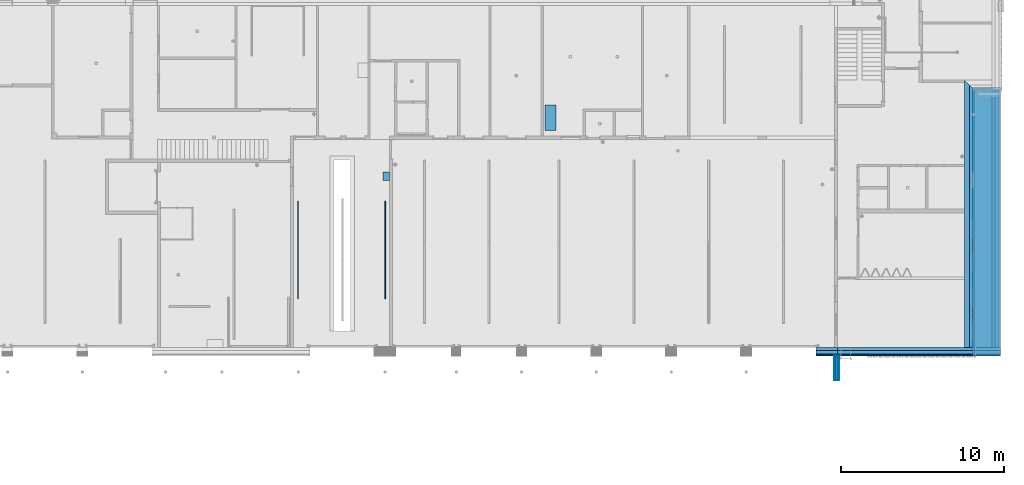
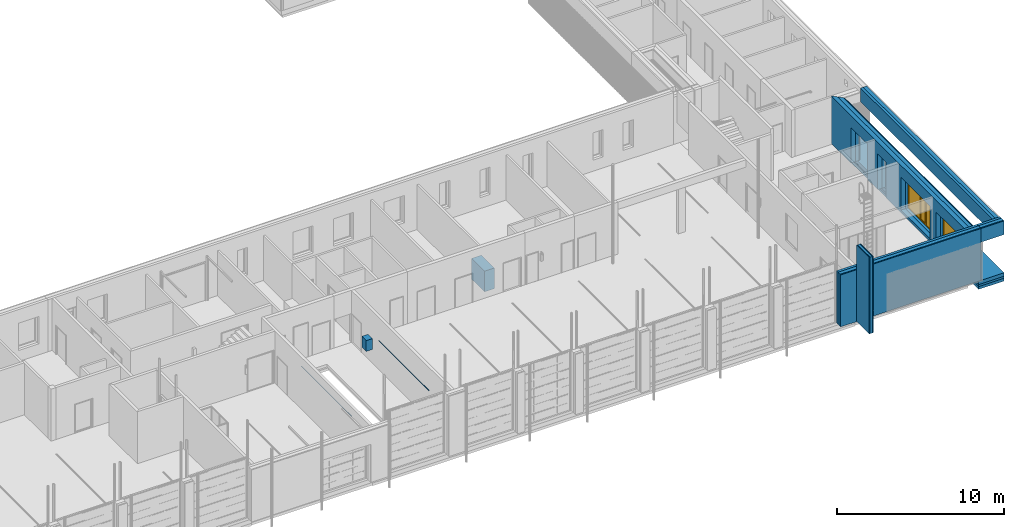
# One storey, part 28 of 112: 23 building element parts, 4 discrete accessories, 2 windows, 4 openings, 7 elements without a shape of their own.
"""IFC2X3 building model written with IfcOpenShell, lengths in millimetres."""

from ifc_helpers import new_model, entity, si_unit, converted_unit, derived_unit, money_unit, direction, frame, origin_with_axes, origin_2d_with_axis, place, context, subcontext, project, spatial, polyline, rectangle, outline, extrude, open_shell, faceted_brep, surface_model, source, transform, mapped, material, type_object, element, fill, aggregate, save


model = new_model("IFC2X3")

# Units and contexts
model_context = context("Model", 3, precision=0.01, world=origin_with_axes(), true_north=direction((0.0, 1.0)))
body_context = subcontext(model_context, "Body", "Model", "MODEL_VIEW")
ifc_project = project(units=[si_unit("LENGTHUNIT", "METRE", prefix="MILLI"), si_unit("AREAUNIT", "SQUARE_METRE"), si_unit("VOLUMEUNIT", "CUBIC_METRE"), converted_unit("PLANEANGLEUNIT", "DEGREE", entity("IfcPlaneAngleMeasure", 0.0174532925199), si_unit("PLANEANGLEUNIT", "RADIAN"), dimensions=[0, 0, 0, 0, 0, 0, 0]), si_unit("SOLIDANGLEUNIT", "STERADIAN"), money_unit("EUR"), converted_unit("TIMEUNIT", "Year", entity("IfcTimeMeasure", 31556926.0), si_unit("TIMEUNIT", "SECOND"), dimensions=[0, 0, 1, 0, 0, 0, 0]), si_unit("MASSUNIT", "GRAM", prefix="KILO"), si_unit("THERMODYNAMICTEMPERATUREUNIT", "DEGREE_CELSIUS"), si_unit("LUMINOUSINTENSITYUNIT", "LUMEN"), si_unit("ENERGYUNIT", "JOULE", prefix="MEGA"), derived_unit("THERMALCONDUCTANCEUNIT", [(si_unit("POWERUNIT", "WATT"), 1), (si_unit("LENGTHUNIT", "METRE"), -1), (si_unit("THERMODYNAMICTEMPERATUREUNIT", "KELVIN"), -1)]), derived_unit("SPECIFICHEATCAPACITYUNIT", [(si_unit("ENERGYUNIT", "JOULE"), 1), (si_unit("MASSUNIT", "GRAM", prefix="KILO"), -1), (si_unit("THERMODYNAMICTEMPERATUREUNIT", "KELVIN"), -1)]), derived_unit("MASSDENSITYUNIT", [(si_unit("MASSUNIT", "GRAM", prefix="KILO"), 1), (si_unit("VOLUMEUNIT", "CUBIC_METRE"), -1)])], contexts=[model_context])

# Site, building, storey
site_placement = place(None, origin_with_axes())
site = spatial("IfcSite", under=ifc_project, at=site_placement, Name="Politse- ja Piirivalveameti ning Päästeameti ühishoone", CompositionType="ELEMENT")
building_placement = place(site_placement, origin_with_axes())
building = spatial("IfcBuilding", under=site, at=building_placement, Name="Politse- ja Piirivalveameti ning Päästeameti ühishoone", CompositionType="ELEMENT")
storey_placement = place(building_placement, origin_with_axes())
storey = spatial("IfcBuildingStorey", under=building, at=storey_placement, Name="Esimene korrus", CompositionType="ELEMENT", Elevation=0.0)

# Window
window_style = type_object("IfcWindowStyle", Name="Triple Window 23", ConstructionType="NOTDEFINED", OperationType="TRIPLE_PANEL_VERTICAL", ParameterTakesPrecedence=False, Sizeable=False)
shared_shape_1 = source(origin_with_axes(), body_context, "Body", "SurfaceModel", [
    faceted_brep([(287.5, -25.0, 2350.0), (287.5, -50.0, 2350.0), (412.5, -50.0, 2350.0), (412.5, 0.0, 2350.0), (312.5, 0.0, 2350.0), (312.5, -25.0, 2350.0), (287.5, -25.0, 50.0), (287.5, -50.0, 50.0), (412.5, -50.0, 50.0), (412.5, 0.0, 50.0), (312.5, 0.0, 50.0), (312.5, -25.0, 50.0)], [[[0, 1, 2, 3, 4, 5]], [[6, 7, 1, 0]], [[8, 2, 1, 7]], [[9, 3, 2, 8]], [[4, 3, 9, 10]], [[10, 11, 5, 4]], [[5, 11, 6, 0]], [[11, 10, 9, 8, 7, 6]]]),
    faceted_brep([(-332.0, 0.0, 2350.0), (-393.0, 0.0, 2350.0), (-393.0, -50.0, 2350.0), (-307.0, -50.0, 2350.0), (-307.0, -25.0, 2350.0), (-332.0, -25.0, 2350.0), (-332.0, 0.0, 50.0), (-393.0, 0.0, 50.0), (-393.0, -50.0, 50.0), (-307.0, -50.0, 50.0), (-307.0, -25.0, 50.0), (-332.0, -25.0, 50.0)], [[[0, 1, 2, 3, 4, 5]], [[6, 7, 1, 0]], [[1, 7, 8, 2]], [[2, 8, 9, 3]], [[4, 3, 9, 10]], [[10, 11, 5, 4]], [[5, 11, 6, 0]], [[11, 10, 9, 8, 7, 6]]]),
    faceted_brep([(287.5, -25.0, 50.0), (287.5, -50.0, 50.0), (412.5, -50.0, 50.0), (412.5, 0.0, 50.0), (312.5, 0.0, 50.0), (312.5, -25.0, 50.0), (-307.0, -25.0, 50.0), (-307.0, -50.0, 50.0), (-1750.0, -50.0, 50.0), (-1750.0, -50.0, 0.0), (1750.0, -50.0, 0.0), (1750.0, -50.0, 50.0), (1700.0, -50.0, 50.0), (-393.0, -50.0, 50.0), (-1700.0, -50.0, 50.0), (1700.0, 0.0, 50.0), (-332.0, 0.0, 25.0), (312.5, 0.0, 25.0), (1750.0, 0.0, 50.0), (1750.0, 0.0, 0.0), (-1750.0, 0.0, 0.0), (-1750.0, 0.0, 50.0), (-1700.0, 0.0, 50.0), (-393.0, 0.0, 50.0), (-332.0, 0.0, 50.0), (312.5, -25.0, 25.0), (-332.0, -25.0, 25.0), (-332.0, -25.0, 50.0)], [[[0, 1, 2, 3, 4, 5]], [[6, 7, 1, 0]], [[8, 9, 10, 11, 12, 2, 1, 7, 13, 14]], [[15, 3, 2, 12]], [[16, 17, 4, 3, 15, 18, 19, 20, 21, 22, 23, 24]], [[17, 25, 5, 4]], [[5, 25, 26, 27, 6, 0]], [[27, 24, 23, 13, 7, 6]], [[21, 20, 9, 8]], [[20, 19, 10, 9]], [[19, 18, 11, 10]], [[18, 15, 12, 11]], [[23, 22, 14, 13]], [[22, 21, 8, 14]], [[16, 26, 25, 17]], [[27, 26, 16, 24]]]),
    faceted_brep([(-332.0, 0.0, 2350.0), (-393.0, 0.0, 2350.0), (-1700.0, 0.0, 2350.0), (-1750.0, 0.0, 2350.0), (-1750.0, 0.0, 2400.0), (1750.0, 0.0, 2400.0), (1750.0, 0.0, 2350.0), (1700.0, 0.0, 2350.0), (412.5, 0.0, 2350.0), (312.5, 0.0, 2350.0), (312.5, 0.0, 2375.0), (-332.0, 0.0, 2375.0), (-332.0, -25.0, 2350.0), (-307.0, -25.0, 2350.0), (-307.0, -50.0, 2350.0), (-393.0, -50.0, 2350.0), (-1700.0, -50.0, 2350.0), (-1750.0, -50.0, 2350.0), (-1750.0, -50.0, 2400.0), (1750.0, -50.0, 2400.0), (1750.0, -50.0, 2350.0), (1700.0, -50.0, 2350.0), (412.5, -50.0, 2350.0), (312.5, -25.0, 2350.0), (287.5, -50.0, 2350.0), (287.5, -25.0, 2350.0), (312.5, -25.0, 2375.0), (-332.0, -25.0, 2375.0)], [[[0, 1, 2, 3, 4, 5, 6, 7, 8, 9, 10, 11]], [[12, 13, 14, 15, 1, 0]], [[2, 1, 15, 16]], [[3, 2, 16, 17]], [[4, 3, 17, 18]], [[5, 4, 18, 19]], [[6, 5, 19, 20]], [[7, 6, 20, 21]], [[8, 7, 21, 22]], [[23, 9, 8, 22, 24, 25]], [[9, 23, 26, 10]], [[10, 26, 27, 11]], [[11, 27, 12, 0]], [[25, 13, 12, 27, 26, 23]], [[25, 24, 14, 13]], [[14, 24, 22, 21, 20, 19, 18, 17, 16, 15]]]),
    faceted_brep([(-1700.0, -50.0, 2350.0), (-1700.0, 0.0, 2350.0), (-1750.0, 0.0, 2350.0), (-1750.0, -50.0, 2350.0), (-1700.0, -50.0, 50.0), (-1700.0, 0.0, 50.0), (-1750.0, 0.0, 50.0), (-1750.0, -50.0, 50.0)], [[[0, 1, 2, 3]], [[4, 5, 1, 0]], [[1, 5, 6, 2]], [[3, 2, 6, 7]], [[0, 3, 7, 4]], [[7, 6, 5, 4]]]),
    faceted_brep([(1700.0, -50.0, 50.0), (1700.0, 0.0, 50.0), (1750.0, 0.0, 50.0), (1750.0, -50.0, 50.0), (1700.0, -50.0, 2350.0), (1700.0, 0.0, 2350.0), (1750.0, 0.0, 2350.0), (1750.0, -50.0, 2350.0)], [[[0, 1, 2, 3]], [[4, 5, 1, 0]], [[1, 5, 6, 2]], [[3, 2, 6, 7]], [[0, 3, 7, 4]], [[7, 6, 5, 4]]]),
    surface_model("IfcShellBasedSurfaceModel", [(-1700.0, -35.0, 50.0), (-393.0, -35.0, 50.0), (-393.0, -35.0, 2350.0), (-1700.0, -35.0, 2350.0)], [open_shell([[[0, 1, 2, 3]]])]),
    surface_model("IfcShellBasedSurfaceModel", [(-1700.0, -15.0, 50.0), (-1700.0, -15.0, 2350.0), (-393.0, -15.0, 2350.0), (-393.0, -15.0, 50.0)], [open_shell([[[0, 1, 2, 3]]])]),
    faceted_brep([(-282.0, -25.0, 2325.0), (-282.0, 25.0, 2325.0), (-332.0, 25.0, 2325.0), (-332.0, -25.0, 2325.0), (-282.0, -25.0, 75.0), (-282.0, 25.0, 75.0), (-332.0, 25.0, 75.0), (-332.0, -25.0, 75.0)], [[[0, 1, 2, 3]], [[4, 5, 1, 0]], [[1, 5, 6, 2]], [[3, 2, 6, 7]], [[0, 3, 7, 4]], [[7, 6, 5, 4]]]),
    faceted_brep([(262.5, -25.0, 75.0), (262.5, 25.0, 75.0), (312.5, 25.0, 75.0), (312.5, -25.0, 75.0), (262.5, -25.0, 2325.0), (262.5, 25.0, 2325.0), (312.5, 25.0, 2325.0), (312.5, -25.0, 2325.0)], [[[0, 1, 2, 3]], [[4, 5, 1, 0]], [[1, 5, 6, 2]], [[3, 2, 6, 7]], [[0, 3, 7, 4]], [[7, 6, 5, 4]]]),
    faceted_brep([(312.5, -25.0, 25.0), (312.5, 25.0, 25.0), (312.5, 25.0, 75.0), (312.5, -25.0, 75.0), (-332.0, -25.0, 25.0), (-332.0, 25.0, 25.0), (-332.0, 25.0, 75.0), (-282.0, 25.0, 75.0), (262.5, 25.0, 75.0), (262.5, -25.0, 75.0), (-282.0, -25.0, 75.0), (-332.0, -25.0, 75.0)], [[[0, 1, 2, 3]], [[4, 5, 1, 0]], [[1, 5, 6, 7, 8, 2]], [[3, 2, 8, 9]], [[0, 3, 9, 10, 11, 4]], [[11, 6, 5, 4]], [[10, 7, 6, 11]], [[9, 8, 7, 10]]]),
    faceted_brep([(-332.0, -25.0, 2375.0), (-332.0, 25.0, 2375.0), (-332.0, 25.0, 2325.0), (-332.0, -25.0, 2325.0), (312.5, -25.0, 2375.0), (312.5, 25.0, 2375.0), (312.5, 25.0, 2325.0), (262.5, 25.0, 2325.0), (-282.0, 25.0, 2325.0), (-282.0, -25.0, 2325.0), (262.5, -25.0, 2325.0), (312.5, -25.0, 2325.0)], [[[0, 1, 2, 3]], [[4, 5, 1, 0]], [[1, 5, 6, 7, 8, 2]], [[3, 2, 8, 9]], [[0, 3, 9, 10, 11, 4]], [[11, 6, 5, 4]], [[10, 7, 6, 11]], [[9, 8, 7, 10]]]),
    surface_model("IfcShellBasedSurfaceModel", [(-282.0, -10.0, 75.0), (262.5, -10.0, 75.0), (262.5, -10.0, 2325.0), (-282.0, -10.0, 2325.0)], [open_shell([[[0, 1, 2, 3]]])]),
    surface_model("IfcShellBasedSurfaceModel", [(-282.0, 10.0, 75.0), (-282.0, 10.0, 2325.0), (262.5, 10.0, 2325.0), (262.5, 10.0, 75.0)], [open_shell([[[0, 1, 2, 3]]])]),
    surface_model("IfcShellBasedSurfaceModel", [(412.5, -35.0, 50.0), (1700.0, -35.0, 50.0), (1700.0, -35.0, 2350.0), (412.5, -35.0, 2350.0)], [open_shell([[[0, 1, 2, 3]]])]),
    surface_model("IfcShellBasedSurfaceModel", [(412.5, -15.0, 50.0), (412.5, -15.0, 2350.0), (1700.0, -15.0, 2350.0), (1700.0, -15.0, 50.0)], [open_shell([[[0, 1, 2, 3]]])]),
])
wall_1_placement = place(storey_placement, frame((67960.5638285, 0.0, 0.0), z_axis=(0.0, 0.0, 1.0), x_axis=(0.0, 1.0, 0.0)))
opening_1_placement = place(wall_1_placement, frame((6253.00649306, 0.0, 200.0), z_axis=(0.0, 0.0, 1.0), x_axis=(1.0, 0.0, 0.0)))
window_1_placement = place(opening_1_placement, frame((1750.0, 0.0, 0.0), z_axis=(0.0, 0.0, 1.0), x_axis=(-1.0, 0.0, 0.0)))
window_1 = element("IfcWindow", 1, at=window_1_placement, inside=storey, type_object=window_style, Name="A-03", ObjectType="WINDOW", OverallHeight=2400.0, OverallWidth=3500.0, context=body_context, shape_type="MappedRepresentation", body=[
    mapped(shared_shape_1, transform((1750.0, 540.0, 0.0))),
])

opening_2_placement = place(wall_1_placement, frame((2053.00649306, 0.0, 200.0), z_axis=(0.0, 0.0, 1.0), x_axis=(1.0, 0.0, 0.0)))
window_2_placement = place(opening_2_placement, frame((1750.0, 0.0, 0.0), z_axis=(0.0, 0.0, 1.0), x_axis=(-1.0, 0.0, 0.0)))
window_2 = element("IfcWindow", 2, at=window_2_placement, inside=storey, type_object=window_style, Name="A-03", ObjectType="WINDOW", OverallHeight=2400.0, OverallWidth=3500.0, context=body_context, shape_type="MappedRepresentation", body=[
    mapped(shared_shape_1, transform((1750.0, 540.0, 0.0))),
])

# Discrete accessories
discrete_accessory_type_1 = type_object("IfcDiscreteAccessoryType", Name="Tube 23")
shared_shape_2 = source(origin_with_axes(), body_context, "Body", "Brep", [
    faceted_brep([(0.0, 0.0, -25.0), (0.0, -6.47047612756, -24.1481456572), (0.0, -12.5, -21.6506350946), (0.0, -17.6776695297, -17.6776695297), (0.0, -21.6506350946, -12.5), (0.0, -24.1481456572, -6.47047612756), (0.0, -25.0, 0.0), (0.0, -24.1481456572, 6.47047612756), (0.0, -21.6506350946, 12.5), (0.0, -17.6776695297, 17.6776695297), (0.0, -12.5, 21.6506350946), (0.0, -6.47047612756, 24.1481456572), (0.0, 0.0, 25.0), (0.0, 6.47047612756, 24.1481456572), (0.0, 12.5, 21.6506350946), (0.0, 17.6776695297, 17.6776695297), (0.0, 21.6506350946, 12.5), (0.0, 24.1481456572, 6.47047612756), (0.0, 25.0, 0.0), (0.0, 24.1481456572, -6.47047612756), (0.0, 21.6506350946, -12.5), (0.0, 17.6776695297, -17.6776695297), (0.0, 12.5, -21.6506350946), (0.0, 6.47047612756, -24.1481456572), (0.0, -10.0, -17.3205080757), (0.0, -5.17638090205, -19.3185165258), (0.0, 0.0, -20.0), (0.0, 5.17638090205, -19.3185165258), (0.0, 10.0, -17.3205080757), (0.0, 14.1421356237, -14.1421356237), (0.0, 17.3205080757, -10.0), (0.0, 19.3185165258, -5.17638090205), (0.0, 20.0, 0.0), (0.0, 19.3185165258, 5.17638090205), (0.0, 17.3205080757, 10.0), (0.0, 14.1421356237, 14.1421356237), (0.0, 10.0, 17.3205080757), (0.0, 5.17638090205, 19.3185165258), (0.0, 0.0, 20.0), (0.0, -5.17638090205, 19.3185165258), (0.0, -10.0, 17.3205080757), (0.0, -14.1421356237, 14.1421356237), (0.0, -17.3205080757, 10.0), (0.0, -19.3185165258, 5.17638090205), (0.0, -20.0, 0.0), (0.0, -19.3185165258, -5.17638090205), (0.0, -17.3205080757, -10.0), (0.0, -14.1421356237, -14.1421356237), (6000.0, -6.47047612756, -24.1481456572), (6000.0, 0.0, -25.0), (6000.0, -12.5, -21.6506350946), (6000.0, -17.6776695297, -17.6776695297), (6000.0, -21.6506350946, -12.5), (6000.0, -24.1481456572, -6.47047612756), (6000.0, -25.0, 0.0), (6000.0, -24.1481456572, 6.47047612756), (6000.0, -21.6506350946, 12.5), (6000.0, -17.6776695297, 17.6776695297), (6000.0, -12.5, 21.6506350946), (6000.0, -6.47047612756, 24.1481456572), (6000.0, 0.0, 25.0), (6000.0, 6.47047612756, 24.1481456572), (6000.0, 12.5, 21.6506350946), (6000.0, 17.6776695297, 17.6776695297), (6000.0, 21.6506350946, 12.5), (6000.0, 24.1481456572, 6.47047612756), (6000.0, 25.0, 0.0), (6000.0, 24.1481456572, -6.47047612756), (6000.0, 21.6506350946, -12.5), (6000.0, 17.6776695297, -17.6776695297), (6000.0, 12.5, -21.6506350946), (6000.0, 6.47047612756, -24.1481456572), (6000.0, -10.0, -17.3205080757), (6000.0, -5.17638090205, -19.3185165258), (6000.0, 0.0, -20.0), (6000.0, 5.17638090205, -19.3185165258), (6000.0, 10.0, -17.3205080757), (6000.0, 14.1421356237, -14.1421356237), (6000.0, 17.3205080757, -10.0), (6000.0, 19.3185165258, -5.17638090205), (6000.0, 20.0, 0.0), (6000.0, 19.3185165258, 5.17638090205), (6000.0, 17.3205080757, 10.0), (6000.0, 14.1421356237, 14.1421356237), (6000.0, 10.0, 17.3205080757), (6000.0, 5.17638090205, 19.3185165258), (6000.0, 0.0, 20.0), (6000.0, -5.17638090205, 19.3185165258), (6000.0, -10.0, 17.3205080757), (6000.0, -14.1421356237, 14.1421356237), (6000.0, -17.3205080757, 10.0), (6000.0, -19.3185165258, 5.17638090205), (6000.0, -20.0, 0.0), (6000.0, -19.3185165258, -5.17638090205), (6000.0, -17.3205080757, -10.0), (6000.0, -14.1421356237, -14.1421356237)], [[[0, 1, 2, 3, 4, 5, 6, 7, 8, 9, 10, 11, 12, 13, 14, 15, 16, 17, 18, 19, 20, 21, 22, 23], [24, 25, 26, 27, 28, 29, 30, 31, 32, 33, 34, 35, 36, 37, 38, 39, 40, 41, 42, 43, 44, 45, 46, 47]], [[48, 1, 0, 49]], [[50, 2, 1, 48]], [[51, 3, 2, 50]], [[52, 4, 3, 51]], [[53, 5, 4, 52]], [[54, 6, 5, 53]], [[55, 7, 6, 54]], [[56, 8, 7, 55]], [[57, 9, 8, 56]], [[58, 10, 9, 57]], [[59, 11, 10, 58]], [[60, 12, 11, 59]], [[61, 13, 12, 60]], [[62, 14, 13, 61]], [[63, 15, 14, 62]], [[64, 16, 15, 63]], [[65, 17, 16, 64]], [[66, 18, 17, 65]], [[67, 19, 18, 66]], [[68, 20, 19, 67]], [[69, 21, 20, 68]], [[70, 22, 21, 69]], [[71, 23, 22, 70]], [[49, 0, 23, 71]], [[72, 73, 25, 24]], [[73, 74, 26, 25]], [[74, 75, 27, 26]], [[75, 76, 28, 27]], [[76, 77, 29, 28]], [[77, 78, 30, 29]], [[78, 79, 31, 30]], [[79, 80, 32, 31]], [[80, 81, 33, 32]], [[81, 82, 34, 33]], [[82, 83, 35, 34]], [[83, 84, 36, 35]], [[84, 85, 37, 36]], [[85, 86, 38, 37]], [[86, 87, 39, 38]], [[87, 88, 40, 39]], [[88, 89, 41, 40]], [[89, 90, 42, 41]], [[90, 91, 43, 42]], [[91, 92, 44, 43]], [[92, 93, 45, 44]], [[93, 94, 46, 45]], [[94, 95, 47, 46]], [[95, 72, 24, 47]], [[50, 48, 49, 71, 70, 69, 68, 67, 66, 65, 64, 63, 62, 61, 60, 59, 58, 57, 56, 55, 54, 53, 52, 51], [76, 75, 74, 73, 72, 95, 94, 93, 92, 91, 90, 89, 88, 87, 86, 85, 84, 83, 82, 81, 80, 79, 78, 77]]]),
])
for number, where, z_axis, x_axis in (
    (3, (27034.3059726, 2983.34089764, 2500.0), (0.0, 0.0, 1.0), (0.0, 1.0, 0.0)),
    (4, (32389.7100495, 2983.34089764, 2500.0), (0.0, 0.0, 1.0), (0.0, 1.0, 0.0)),
):
    element("IfcDiscreteAccessory", number, at=place(storey_placement, frame(where, z_axis=z_axis, x_axis=x_axis)), inside=storey, type_object=discrete_accessory_type_1, Name="Voolikukandur", context=body_context, shape_type="MappedRepresentation", body=[
        mapped(shared_shape_2, transform((0.0, 0.0, 0.0))),
    ])
ifc_material_1 = material(Name="Aluminium")
discrete_accessory_type_2 = type_object("IfcDiscreteAccessoryType", Name="Aluminium 790")
discrete_accessory_1_placement = place(storey_placement, frame((32244.7100495, 10247.2846977, 1000.0), z_axis=(0.0, 0.0, 1.0), x_axis=(1.0, 0.0, 0.0)))
element("IfcDiscreteAccessory", 5, at=discrete_accessory_1_placement, inside=storey, type_object=discrete_accessory_type_2, material=ifc_material_1, Name="Kõrgsurvepesur", context=body_context, shape_type="SweptSolid", body=[
    extrude(outline(polyline([(0.0, 0.0), (420.0, 0.0), (420.0, 533.0), (0.0, 533.0), (0.0, 0.0)])), origin_with_axes(), (0.0, 0.0, 1.0), 790.0),
])
discrete_accessory_type_3 = type_object("IfcDiscreteAccessoryType", Name="Aluminium 1510")
discrete_accessory_2_placement = place(storey_placement, frame((42208.2627781, 13328.0639744, 0.0), z_axis=(0.0, 0.0, 1.0), x_axis=(1.0, 0.0, 0.0)))
element("IfcDiscreteAccessory", 6, at=discrete_accessory_2_placement, inside=storey, type_object=discrete_accessory_type_3, material=ifc_material_1, Name="Madalsurve suruõhukompressor", context=body_context, shape_type="SweptSolid", body=[
    extrude(outline(polyline([(0.0, 0.0), (680.0, 0.0), (680.0, 1560.0), (0.0, 1560.0), (0.0, 0.0)])), origin_with_axes(), (0.0, 0.0, 1.0), 1510.0),
])

# Wall, opening
wall_type_1 = type_object("IfcWallType", Name="VS-03_välissein paneel300 + fassaadikassett 620", PredefinedType="NOTDEFINED")
wall_1 = element("IfcWall", 7, at=wall_1_placement, inside=storey, type_object=wall_type_1, Name="VS-03")
opening_1 = element("IfcOpeningElement", 8, at=opening_1_placement, cuts=wall_1, Name="A-03", context=body_context, shape_type="SweptSolid", body=[
    extrude(rectangle(XDim=3500.0, YDim=2400.0, at=origin_2d_with_axis()), frame((0.0, -540.0, 1200.0), z_axis=(0.0, -1.0, 0.0), x_axis=(-1.0, 0.0, 0.0)), (0.0, 0.0, -1.0), 1160.0),
    extrude(rectangle(XDim=3500.0, YDim=2400.0, at=origin_2d_with_axis()), frame((0.0, -540.0, 1200.0), z_axis=(0.0, 1.0, 0.0), x_axis=(-1.0, 0.0, 0.0)), (0.0, 0.0, -1.0), 700.0),
])

fill(opening_1, window_1)

# Opening
opening_2 = element("IfcOpeningElement", 9, at=opening_2_placement, cuts=wall_1, Name="A-03", context=body_context, shape_type="SweptSolid", body=[
    extrude(rectangle(XDim=3500.0, YDim=2400.0, at=origin_2d_with_axis()), frame((0.0, -540.0, 1200.0), z_axis=(0.0, -1.0, 0.0), x_axis=(-1.0, 0.0, 0.0)), (0.0, 0.0, -1.0), 1160.0),
    extrude(rectangle(XDim=3500.0, YDim=2400.0, at=origin_2d_with_axis()), frame((0.0, -540.0, 1200.0), z_axis=(0.0, 1.0, 0.0), x_axis=(-1.0, 0.0, 0.0)), (0.0, 0.0, -1.0), 700.0),
])

fill(opening_2, window_2)

opening_3_placement = place(wall_1_placement, frame((13002.9890326, 0.0, 0.0), z_axis=(0.0, 0.0, 1.0), x_axis=(1.0, 0.0, 0.0)))
element("IfcOpeningElement", 10, at=opening_3_placement, cuts=wall_1, Name="VU-02", context=body_context, shape_type="SweptSolid", body=[
    extrude(rectangle(XDim=2000.0, YDim=2600.0, at=origin_2d_with_axis()), frame((0.0, 620.0, 1300.0), z_axis=(0.0, -1.0, 0.0), x_axis=(-1.0, 0.0, 0.0)), (0.0, 0.0, 1.0), 1860.0),
])

opening_4_placement = place(wall_1_placement, frame((10303.1201278, 0.0, 0.0), z_axis=(0.0, 0.0, 1.0), x_axis=(1.0, 0.0, 0.0)))
element("IfcOpeningElement", 11, at=opening_4_placement, cuts=wall_1, Name="VU-07", context=body_context, shape_type="SweptSolid", body=[
    extrude(rectangle(XDim=1000.0, YDim=2600.0, at=origin_2d_with_axis()), frame((0.0, -550.0, 1300.0), z_axis=(0.0, 1.0, 0.0), x_axis=(1.0, 0.0, 0.0)), (0.0, 0.0, 1.0), 1170.0),
    extrude(rectangle(XDim=1000.0, YDim=2600.0, at=origin_2d_with_axis()), frame((0.0, -550.0, 1300.0), z_axis=(0.0, -1.0, 0.0), x_axis=(1.0, 0.0, 0.0)), (0.0, 0.0, 1.0), 690.0),
])

# Building element part
ifc_material_2 = material(Name="KON-04_Betoon - Konstuktsioon")
building_element_part_1_placement = place(wall_1_placement, origin_with_axes())
building_element_part_1 = element("IfcBuildingElementPart", 12, at=building_element_part_1_placement, material=ifc_material_2, Name="KON-04_Betoon - Konstuktsioon", context=body_context, shape_type="SweptSolid", body=[
    extrude(outline(polyline([(0.0, -300.0), (16122.809139, -300.0), (16422.809139, 0.0), (0.0, 0.0), (0.0, -300.0)])), origin_with_axes(), (0.0, 0.0, 1.0), 3460.0),
])

ifc_material_3 = material(Name="SOJ-06_Soojustus - Plastik Kõva")
building_element_part_2_placement = place(wall_1_placement, origin_with_axes())
building_element_part_2 = element("IfcBuildingElementPart", 13, at=building_element_part_2_placement, material=ifc_material_3, Name="SOJ-06_Soojustus - Plastik Kõva", context=body_context, shape_type="SweptSolid", body=[
    extrude(outline(polyline([(0.0, -550.0), (15872.809139, -550.0), (16122.809139, -300.0), (0.0, -300.0), (0.0, -550.0)])), origin_with_axes(), (0.0, 0.0, 1.0), 3460.0),
])

ifc_material_4 = material(Name="Õhkvahe - Raam")
building_element_part_3_placement = place(wall_1_placement, origin_with_axes())
building_element_part_3 = element("IfcBuildingElementPart", 14, at=building_element_part_3_placement, material=ifc_material_4, Name="Õhkvahe - Raam", context=body_context, shape_type="SweptSolid", body=[
    extrude(outline(polyline([(0.0, -580.0), (15842.809139, -580.0), (15872.809139, -550.0), (0.0, -550.0), (0.0, -580.0)])), origin_with_axes(), (0.0, 0.0, 1.0), 3460.0),
])

ifc_material_5 = material(Name="GENEERILINE - VÄLINE VOODER")
building_element_part_4_placement = place(wall_1_placement, origin_with_axes())
building_element_part_4 = element("IfcBuildingElementPart", 15, at=building_element_part_4_placement, material=ifc_material_5, Name="GENEERILINE - VÄLINE VOODER", context=body_context, shape_type="SweptSolid", body=[
    extrude(outline(polyline([(0.0, -620.0), (15802.809139, -620.0), (15842.809139, -580.0), (0.0, -580.0), (0.0, -620.0)])), origin_with_axes(), (0.0, 0.0, 1.0), 3460.0),
])

aggregate(wall_1, [building_element_part_1, building_element_part_2, building_element_part_3, building_element_part_4])

# Wall, building element parts
wall_type_2 = type_object("IfcWallType", Name="VS-01_välissein 510", PredefinedType="NOTDEFINED")
wall_2_placement = place(storey_placement, frame((69660.5664257, 15802.809139, 2799.5350048), z_axis=(0.0, 0.0, 1.0), x_axis=(0.0, -1.0, 0.0)))
wall_2 = element("IfcWall", 16, at=wall_2_placement, inside=storey, type_object=wall_type_2, Name="VS-01")
building_element_part_5_placement = place(wall_2_placement, origin_with_axes())
building_element_part_5 = element("IfcBuildingElementPart", 17, at=building_element_part_5_placement, material=ifc_material_2, Name="KON-04_Betoon - Konstuktsioon", context=body_context, shape_type="SweptSolid", body=[
    extrude(outline(polyline([(0.0, 0.0), (15802.809139, 0.0), (15802.809139, 180.0), (0.0, 180.0), (0.0, 0.0)])), origin_with_axes(), (0.0, 0.0, 1.0), 1000.4649952),
])
building_element_part_6_placement = place(wall_2_placement, origin_with_axes())
building_element_part_6 = element("IfcBuildingElementPart", 18, at=building_element_part_6_placement, material=ifc_material_3, Name="SOJ-06_Soojustus - Plastik Kõva", context=body_context, shape_type="SweptSolid", body=[
    extrude(outline(polyline([(0.0, 180.0), (15802.809139, 180.0), (15802.809139, 430.0), (0.0, 430.0), (0.0, 180.0)])), origin_with_axes(), (0.0, 0.0, 1.0), 1000.4649952),
])
aggregate(wall_2, [building_element_part_5, building_element_part_6])

wall_3_placement = place(storey_placement, frame((68580.5638285, 0.0, 2799.5350048), z_axis=(0.0, 0.0, 1.0), x_axis=(1.0, 0.0, 0.0)))
wall_3 = element("IfcWall", 19, at=wall_3_placement, inside=storey, type_object=wall_type_2, Name="VS-01")
building_element_part_7_placement = place(wall_3_placement, origin_with_axes())
building_element_part_7 = element("IfcBuildingElementPart", 20, at=building_element_part_7_placement, material=ifc_material_2, Name="KON-04_Betoon - Konstuktsioon", context=body_context, shape_type="SweptSolid", body=[
    extrude(outline(polyline([(0.0, -180.0), (1590.00259722, -180.0), (1590.00259722, 0.0), (0.0, 0.0), (0.0, -180.0)])), origin_with_axes(), (0.0, 0.0, 1.0), 1000.4649952),
])
building_element_part_8_placement = place(wall_3_placement, origin_with_axes())
building_element_part_8 = element("IfcBuildingElementPart", 21, at=building_element_part_8_placement, material=ifc_material_3, Name="SOJ-06_Soojustus - Plastik Kõva", context=body_context, shape_type="SweptSolid", body=[
    extrude(outline(polyline([(0.0, -430.0), (1590.00259722, -430.0), (1590.00259722, -180.0), (0.0, -180.0), (0.0, -430.0)])), origin_with_axes(), (0.0, 0.0, 1.0), 1000.4649952),
])
building_element_part_9_placement = place(wall_3_placement, origin_with_axes())
building_element_part_9 = element("IfcBuildingElementPart", 22, at=building_element_part_9_placement, material=ifc_material_2, Name="KON-04_Betoon - Konstuktsioon", context=body_context, shape_type="SweptSolid", body=[
    extrude(outline(polyline([(0.0, -510.0), (1590.00259722, -510.0), (1590.00259722, -430.0), (0.0, -430.0), (0.0, -510.0)])), origin_with_axes(), (0.0, 0.0, 1.0), 1000.4649952),
])
aggregate(wall_3, [building_element_part_7, building_element_part_8, building_element_part_9])

wall_4_placement = place(storey_placement, frame((60160.5519118, 0.0, 0.0), z_axis=(0.0, 0.0, 1.0), x_axis=(1.0, 0.0, 0.0)))
wall_4 = element("IfcWall", 23, at=wall_4_placement, inside=storey, type_object=wall_type_2, Name="VS-01")
building_element_part_10_placement = place(wall_4_placement, origin_with_axes())
building_element_part_10 = element("IfcBuildingElementPart", 24, at=building_element_part_10_placement, material=ifc_material_2, Name="KON-04_Betoon - Konstuktsioon", context=body_context, shape_type="SweptSolid", body=[
    extrude(outline(polyline([(0.0, -180.0), (8420.01191667, -180.0), (8420.01191667, 0.0), (0.0, 0.0), (0.0, -180.0)])), origin_with_axes(), (0.0, 0.0, 1.0), 3800.0),
])
building_element_part_11_placement = place(wall_4_placement, origin_with_axes())
building_element_part_11 = element("IfcBuildingElementPart", 25, at=building_element_part_11_placement, material=ifc_material_3, Name="SOJ-06_Soojustus - Plastik Kõva", context=body_context, shape_type="SweptSolid", body=[
    extrude(outline(polyline([(0.0, -430.0), (8420.01191667, -430.0), (8420.01191667, -180.0), (0.0, -180.0), (0.0, -430.0)])), origin_with_axes(), (0.0, 0.0, 1.0), 3800.0),
])
building_element_part_12_placement = place(wall_4_placement, origin_with_axes())
building_element_part_12 = element("IfcBuildingElementPart", 26, at=building_element_part_12_placement, material=ifc_material_2, Name="KON-04_Betoon - Konstuktsioon", context=body_context, shape_type="SweptSolid", body=[
    extrude(outline(polyline([(0.0, -510.0), (8420.01191667, -510.0), (8420.01191667, -430.0), (0.0, -430.0), (0.0, -510.0)])), origin_with_axes(), (0.0, 0.0, 1.0), 3800.0),
])
aggregate(wall_4, [building_element_part_10, building_element_part_11, building_element_part_12])

# Slab, building element parts
slab_type = type_object("IfcSlabType", Name="PP-06_sissepääsu esine terrass 600", PredefinedType="NOTDEFINED")
slab_placement = place(storey_placement, frame((68420.5638285, -510.0, 0.0), z_axis=(0.0, 0.0, 1.0), x_axis=(1.0, 0.0, 0.0)))
slab = element("IfcSlab", 27, at=slab_placement, inside=storey, type_object=slab_type, Name="PP-06", PredefinedType="NOTDEFINED")
ifc_material_6 = material(Name="VKK-03_Kruus")
building_element_part_13_placement = place(slab_placement, origin_with_axes())
building_element_part_13 = element("IfcBuildingElementPart", 28, at=building_element_part_13_placement, material=ifc_material_6, Name="VKK-03_Kruus", context=body_context, shape_type="SweptSolid", body=[
    extrude(outline(polyline([(0.0, 0.0), (1750.00259722, 0.0), (1750.00259722, 16472.809139), (0.0, 16472.809139), (0.0, 0.0)])), frame((0.0, 0.0, -600.0), z_axis=(0.0, 0.0, 1.0), x_axis=(1.0, 0.0, 0.0)), (0.0, 0.0, 1.0), 200.0),
])
ifc_material_7 = material(Name="SOJ-02_Soojustus - Fiiber Kõva")
building_element_part_14_placement = place(slab_placement, origin_with_axes())
building_element_part_14 = element("IfcBuildingElementPart", 29, at=building_element_part_14_placement, material=ifc_material_7, Name="SOJ-02_Soojustus - Fiiber Kõva", context=body_context, shape_type="SweptSolid", body=[
    extrude(outline(polyline([(0.0, 0.0), (1750.00259722, 0.0), (1750.00259722, 16472.809139), (0.0, 16472.809139), (0.0, 0.0)])), frame((0.0, 0.0, -400.0), z_axis=(0.0, 0.0, 1.0), x_axis=(1.0, 0.0, 0.0)), (0.0, 0.0, 1.0), 150.0),
])
ifc_material_8 = material(Name="VKR-01_Betoon")
building_element_part_15_placement = place(slab_placement, origin_with_axes())
building_element_part_15 = element("IfcBuildingElementPart", 30, at=building_element_part_15_placement, material=ifc_material_8, Name="VKR-01_Betoon", context=body_context, shape_type="SweptSolid", body=[
    extrude(outline(polyline([(0.0, 0.0), (1750.00259722, 0.0), (1750.00259722, 16472.809139), (0.0, 16472.809139), (0.0, 0.0)])), frame((0.0, 0.0, -250.0), z_axis=(0.0, 0.0, 1.0), x_axis=(1.0, 0.0, 0.0)), (0.0, 0.0, 1.0), 250.0),
])
aggregate(slab, [building_element_part_13, building_element_part_14, building_element_part_15])

# Wall, building element parts
wall_type_3 = type_object("IfcWallType", Name="VS-06_välissein varikatuse külg 290", PredefinedType="NOTDEFINED")
wall_5_placement = place(storey_placement, frame((59974.5122604, -510.0, 0.0), z_axis=(0.0, 0.0, 1.0), x_axis=(0.0, -1.0, 0.0)))
wall_5 = element("IfcWall", 31, at=wall_5_placement, inside=storey, type_object=wall_type_3, Name="VS-06")
ifc_material_9 = material(Name="ET-06_Teras - Konstruktsioon")
building_element_part_16_placement = place(wall_5_placement, origin_with_axes())
building_element_part_16 = element("IfcBuildingElementPart", 32, at=building_element_part_16_placement, material=ifc_material_9, Name="ET-06_Teras - Konstruktsioon", context=body_context, shape_type="SweptSolid", body=[
    extrude(outline(polyline([(0.0, 250.0), (1499.82160252, 250.0), (1499.82160252, 290.0), (0.0, 290.0), (0.0, 250.0)])), origin_with_axes(), (0.0, 0.0, 1.0), 5600.0),
])
ifc_material_10 = material(Name="Õhkvahe")
building_element_part_17_placement = place(wall_5_placement, origin_with_axes())
building_element_part_17 = element("IfcBuildingElementPart", 33, at=building_element_part_17_placement, material=ifc_material_10, Name="Õhkvahe", context=body_context, shape_type="SweptSolid", body=[
    extrude(outline(polyline([(0.0, 220.0), (1499.82160252, 220.0), (1499.82160252, 250.0), (0.0, 250.0), (0.0, 220.0)])), origin_with_axes(), (0.0, 0.0, 1.0), 5600.0),
])
building_element_part_18_placement = place(wall_5_placement, origin_with_axes())
building_element_part_18 = element("IfcBuildingElementPart", 34, at=building_element_part_18_placement, material=ifc_material_4, Name="Õhkvahe - Raam", context=body_context, shape_type="SweptSolid", body=[
    extrude(outline(polyline([(0.0, 70.0), (1499.82160252, 70.0), (1499.82160252, 220.0), (0.0, 220.0), (0.0, 70.0)])), origin_with_axes(), (0.0, 0.0, 1.0), 5600.0),
])
building_element_part_19_placement = place(wall_5_placement, origin_with_axes())
building_element_part_19 = element("IfcBuildingElementPart", 35, at=building_element_part_19_placement, material=ifc_material_10, Name="Õhkvahe", context=body_context, shape_type="SweptSolid", body=[
    extrude(outline(polyline([(0.0, 40.0), (1499.82160252, 40.0), (1499.82160252, 70.0), (0.0, 70.0), (0.0, 40.0)])), origin_with_axes(), (0.0, 0.0, 1.0), 5600.0),
])
building_element_part_20_placement = place(wall_5_placement, origin_with_axes())
building_element_part_20 = element("IfcBuildingElementPart", 36, at=building_element_part_20_placement, material=ifc_material_9, Name="ET-06_Teras - Konstruktsioon", context=body_context, shape_type="SweptSolid", body=[
    extrude(outline(polyline([(0.0, 0.0), (1499.82160252, 0.0), (1499.82160252, 40.0), (0.0, 40.0), (0.0, 0.0)])), origin_with_axes(), (0.0, 0.0, 1.0), 5600.0),
])
aggregate(wall_5, [building_element_part_16, building_element_part_17, building_element_part_18, building_element_part_19, building_element_part_20])

wall_6_placement = place(storey_placement, frame((58860.5483979, 0.0, 0.0), z_axis=(0.0, 0.0, 1.0), x_axis=(1.0, 0.0, 0.0)))
wall_6 = element("IfcWall", 37, at=wall_6_placement, inside=storey, type_object=wall_type_2, Name="VS-01")
building_element_part_21_placement = place(wall_6_placement, origin_with_axes())
building_element_part_21 = element("IfcBuildingElementPart", 38, at=building_element_part_21_placement, material=ifc_material_2, Name="KON-04_Betoon - Konstuktsioon", context=body_context, shape_type="SweptSolid", body=[
    extrude(outline(polyline([(0.0, -180.0), (1300.00351389, -180.0), (1300.00351389, 0.0), (0.0, 0.0), (0.0, -180.0)])), origin_with_axes(), (0.0, 0.0, 1.0), 3800.0),
])
building_element_part_22_placement = place(wall_6_placement, origin_with_axes())
building_element_part_22 = element("IfcBuildingElementPart", 39, at=building_element_part_22_placement, material=ifc_material_3, Name="SOJ-06_Soojustus - Plastik Kõva", context=body_context, shape_type="SweptSolid", body=[
    extrude(outline(polyline([(0.0, -430.0), (1300.00351389, -430.0), (1300.00351389, -180.0), (0.0, -180.0), (0.0, -430.0)])), origin_with_axes(), (0.0, 0.0, 1.0), 3800.0),
])
building_element_part_23_placement = place(wall_6_placement, origin_with_axes())
building_element_part_23 = element("IfcBuildingElementPart", 40, at=building_element_part_23_placement, material=ifc_material_2, Name="KON-04_Betoon - Konstuktsioon", context=body_context, shape_type="SweptSolid", body=[
    extrude(outline(polyline([(0.0, -510.0), (1300.00351389, -510.0), (1300.00351389, -430.0), (0.0, -430.0), (0.0, -510.0)])), origin_with_axes(), (0.0, 0.0, 1.0), 3800.0),
])
aggregate(wall_6, [building_element_part_21, building_element_part_22, building_element_part_23])

save(model, "model.ifc")
